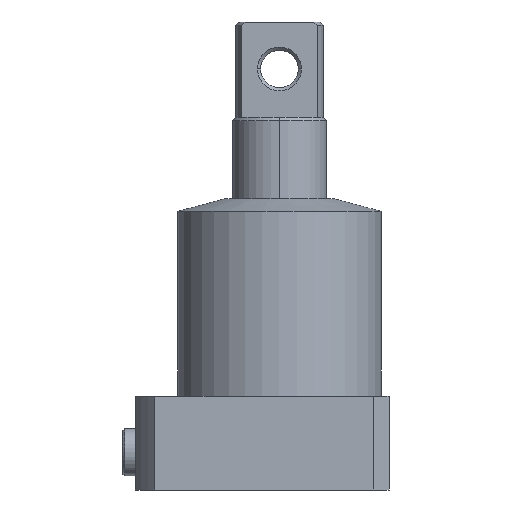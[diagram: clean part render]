
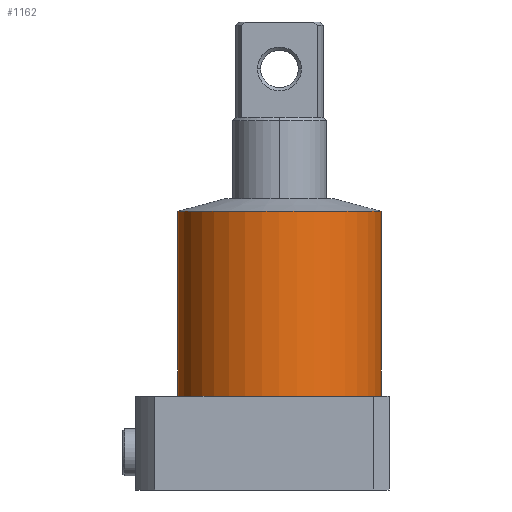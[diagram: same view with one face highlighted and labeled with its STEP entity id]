
A CAD part, front view. The second image highlights one B-rep face of the part: STEP entity #1162.
In plain terms, the highlighted cylindrical face has radius 32.5 mm (diameter 65 mm), a partial arc.
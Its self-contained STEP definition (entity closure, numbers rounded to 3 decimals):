
#686 = CARTESIAN_POINT ( 'NONE',  ( 0., 0., 88.981 ) ) ;
#715 = EDGE_LOOP ( 'NONE', ( #6581, #8235, #3384, #13834 ) ) ;
#823 = CARTESIAN_POINT ( 'NONE',  ( 32.5, 0., 88.981 ) ) ;
#1162 = ADVANCED_FACE ( 'NONE', ( #1768 ), #4753, .T. ) ;
#1768 = FACE_OUTER_BOUND ( 'NONE', #715, .T. ) ;
#1964 = DIRECTION ( 'NONE',  ( -1., 0., 0. ) ) ;
#2568 = VERTEX_POINT ( 'NONE', #9277 ) ;
#3270 = CARTESIAN_POINT ( 'NONE',  ( 0., 0., 30. ) ) ;
#3384 = ORIENTED_EDGE ( 'NONE', *, *, #12957, .T. ) ;
#3785 = CIRCLE ( 'NONE', #15335, 32.5 ) ;
#4544 = DIRECTION ( 'NONE',  ( -1., 0., 0. ) ) ;
#4753 = CYLINDRICAL_SURFACE ( 'NONE', #11555, 32.5 ) ;
#5570 = VERTEX_POINT ( 'NONE', #823 ) ;
#6042 = DIRECTION ( 'NONE',  ( 0., 0., -1. ) ) ;
#6581 = ORIENTED_EDGE ( 'NONE', *, *, #7083, .F. ) ;
#6771 = VECTOR ( 'NONE', #10855, 1000. ) ;
#7042 = EDGE_CURVE ( 'NONE', #2568, #5570, #3785, .T. ) ;
#7083 = EDGE_CURVE ( 'NONE', #5570, #10798, #13585, .T. ) ;
#8235 = ORIENTED_EDGE ( 'NONE', *, *, #7042, .F. ) ;
#8459 = DIRECTION ( 'NONE',  ( -1., 0., 0. ) ) ;
#8642 = VECTOR ( 'NONE', #6042, 1000. ) ;
#9277 = CARTESIAN_POINT ( 'NONE',  ( -32.5, 0., 88.981 ) ) ;
#9579 = DIRECTION ( 'NONE',  ( 0., 0., 1. ) ) ;
#10798 = VERTEX_POINT ( 'NONE', #15874 ) ;
#10855 = DIRECTION ( 'NONE',  ( 0., 0., -1. ) ) ;
#11555 = AXIS2_PLACEMENT_3D ( 'NONE', #15847, #16122, #8459 ) ;
#12160 = CARTESIAN_POINT ( 'NONE',  ( 32.5, 0., 93. ) ) ;
#12171 = DIRECTION ( 'NONE',  ( 0., 0., -1. ) ) ;
#12296 = CARTESIAN_POINT ( 'NONE',  ( -32.5, 0., 30. ) ) ;
#12957 = EDGE_CURVE ( 'NONE', #2568, #13277, #15546, .T. ) ;
#13277 = VERTEX_POINT ( 'NONE', #12296 ) ;
#13585 = LINE ( 'NONE', #12160, #6771 ) ;
#13735 = CARTESIAN_POINT ( 'NONE',  ( -32.5, 0., 93. ) ) ;
#13834 = ORIENTED_EDGE ( 'NONE', *, *, #16067, .F. ) ;
#13991 = AXIS2_PLACEMENT_3D ( 'NONE', #3270, #12171, #4544 ) ;
#15335 = AXIS2_PLACEMENT_3D ( 'NONE', #686, #9579, #1964 ) ;
#15546 = LINE ( 'NONE', #13735, #8642 ) ;
#15847 = CARTESIAN_POINT ( 'NONE',  ( 0., 0., 93. ) ) ;
#15874 = CARTESIAN_POINT ( 'NONE',  ( 32.5, 0., 30. ) ) ;
#16067 = EDGE_CURVE ( 'NONE', #10798, #13277, #16137, .T. ) ;
#16122 = DIRECTION ( 'NONE',  ( 0., 0., -1. ) ) ;
#16137 = CIRCLE ( 'NONE', #13991, 32.5 ) ;
